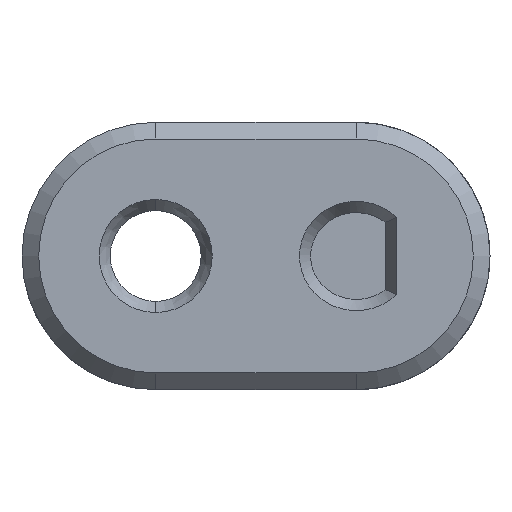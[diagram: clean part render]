
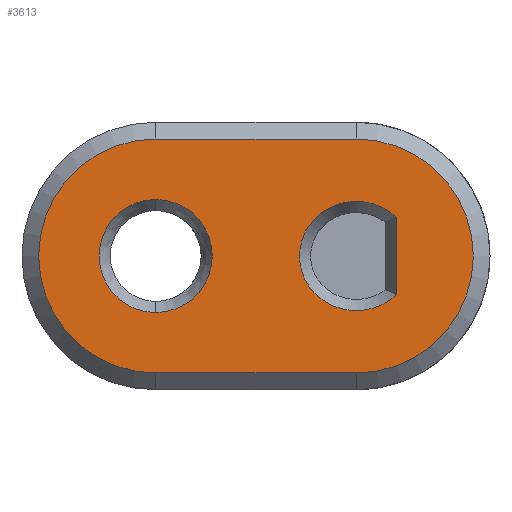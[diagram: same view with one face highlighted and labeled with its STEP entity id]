
A CAD part, front view. The second image highlights one B-rep face of the part: STEP entity #3613.
In plain terms, the highlighted planar face has unit normal (0, -1, 0).
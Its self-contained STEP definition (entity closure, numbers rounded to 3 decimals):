
#4 = AXIS2_PLACEMENT_3D ( 'NONE', #628, #1273, #2223 ) ;
#7 = VERTEX_POINT ( 'NONE', #1488 ) ;
#46 = ORIENTED_EDGE ( 'NONE', *, *, #610, .T. ) ;
#51 = CARTESIAN_POINT ( 'NONE',  ( 0.283, 0., 0.411 ) ) ;
#53 = VERTEX_POINT ( 'NONE', #2522 ) ;
#54 = AXIS2_PLACEMENT_3D ( 'NONE', #726, #3041, #2059 ) ;
#61 = CARTESIAN_POINT ( 'NONE',  ( -1.8, 0., -1.05 ) ) ;
#72 = CARTESIAN_POINT ( 'NONE',  ( -0.476, 0., 0.199 ) ) ;
#229 = B_SPLINE_CURVE_WITH_KNOTS ( 'NONE', 3,
 ( #1527, #3141, #3385, #4013, #2167, #294, #2478, #1579, #362, #2523, #1276, #658, #3153, #2214, #72, #2241, #3166, #1896, #963, #349, #1287, #992, #2839, #51, #3468, #376 ),
 .UNSPECIFIED., .F., .F.,
 ( 4, 2, 2, 2, 2, 2, 2, 2, 2, 2, 2, 2, 4 ),
 ( 0., 0.063, 0.125, 0.188, 0.25, 0.375, 0.5, 0.625, 0.75, 0.813, 0.875, 0.938, 1. ),
 .UNSPECIFIED. ) ;
#294 = CARTESIAN_POINT ( 'NONE',  ( 0.054, 0., -0.489 ) ) ;
#312 = FACE_BOUND ( 'NONE', #3646, .T. ) ;
#328 = AXIS2_PLACEMENT_3D ( 'NONE', #2500, #3148, #2272 ) ;
#349 = CARTESIAN_POINT ( 'NONE',  ( 0.001, 0., 0.492 ) ) ;
#351 = EDGE_CURVE ( 'NONE', #3744, #2238, #2599, .T. ) ;
#362 = CARTESIAN_POINT ( 'NONE',  ( -0.145, 0., -0.472 ) ) ;
#376 = CARTESIAN_POINT ( 'NONE',  ( 0.36, 0., 0.347 ) ) ;
#443 = ORIENTED_EDGE ( 'NONE', *, *, #3484, .T. ) ;
#610 = EDGE_CURVE ( 'NONE', #7, #53, #3188, .T. ) ;
#628 = CARTESIAN_POINT ( 'NONE',  ( -1.8, 0., 0. ) ) ;
#658 = CARTESIAN_POINT ( 'NONE',  ( -0.477, 0., -0.199 ) ) ;
#726 = CARTESIAN_POINT ( 'NONE',  ( -1.8, 0., 0. ) ) ;
#736 = EDGE_CURVE ( 'NONE', #3925, #3164, #1130, .T. ) ;
#752 = CARTESIAN_POINT ( 'NONE',  ( 0.36, 0., -0.302 ) ) ;
#817 = EDGE_LOOP ( 'NONE', ( #1898, #1640, #46, #1253 ) ) ;
#963 = CARTESIAN_POINT ( 'NONE',  ( -0.094, 0., 0.484 ) ) ;
#992 = CARTESIAN_POINT ( 'NONE',  ( 0.148, 0., 0.471 ) ) ;
#1000 = CIRCLE ( 'NONE', #2471, 1.05 ) ;
#1009 = DIRECTION ( 'NONE',  ( 0., 0., -1. ) ) ;
#1095 = DIRECTION ( 'NONE',  ( 0., 0., 1. ) ) ;
#1128 = DIRECTION ( 'NONE',  ( 0., -1., 0. ) ) ;
#1130 = CIRCLE ( 'NONE', #54, 0.508 ) ;
#1195 = VECTOR ( 'NONE', #2384, 1000. ) ;
#1253 = ORIENTED_EDGE ( 'NONE', *, *, #3699, .T. ) ;
#1273 = DIRECTION ( 'NONE',  ( 0., 1., 0. ) ) ;
#1276 = CARTESIAN_POINT ( 'NONE',  ( -0.365, 0., -0.356 ) ) ;
#1287 = CARTESIAN_POINT ( 'NONE',  ( 0.054, 0., 0.489 ) ) ;
#1333 = CIRCLE ( 'NONE', #4, 0.508 ) ;
#1488 = CARTESIAN_POINT ( 'NONE',  ( 0., 0., -1.05 ) ) ;
#1527 = CARTESIAN_POINT ( 'NONE',  ( 0.36, 0., -0.347 ) ) ;
#1579 = CARTESIAN_POINT ( 'NONE',  ( -0.094, 0., -0.484 ) ) ;
#1598 = CARTESIAN_POINT ( 'NONE',  ( -1.8, 0., -1.05 ) ) ;
#1606 = EDGE_LOOP ( 'NONE', ( #2824, #3062 ) ) ;
#1640 = ORIENTED_EDGE ( 'NONE', *, *, #3403, .T. ) ;
#1705 = CARTESIAN_POINT ( 'NONE',  ( -1.8, 0., 0. ) ) ;
#1755 = DIRECTION ( 'NONE',  ( 0., 0., 1. ) ) ;
#1896 = CARTESIAN_POINT ( 'NONE',  ( -0.145, 0., 0.472 ) ) ;
#1898 = ORIENTED_EDGE ( 'NONE', *, *, #2463, .T. ) ;
#1916 = LINE ( 'NONE', #61, #3292 ) ;
#2059 = DIRECTION ( 'NONE',  ( 0., 0., 1. ) ) ;
#2167 = CARTESIAN_POINT ( 'NONE',  ( 0.148, 0., -0.471 ) ) ;
#2214 = CARTESIAN_POINT ( 'NONE',  ( -0.51, 0., 0.097 ) ) ;
#2223 = DIRECTION ( 'NONE',  ( 0., 0., 1. ) ) ;
#2226 = CARTESIAN_POINT ( 'NONE',  ( -1.8, 0., 1.05 ) ) ;
#2238 = VERTEX_POINT ( 'NONE', #2579 ) ;
#2241 = CARTESIAN_POINT ( 'NONE',  ( -0.365, 0., 0.356 ) ) ;
#2272 = DIRECTION ( 'NONE',  ( 0., 0., 1. ) ) ;
#2339 = CARTESIAN_POINT ( 'NONE',  ( -1.8, 0., 0.508 ) ) ;
#2384 = DIRECTION ( 'NONE',  ( -1., 0., 0. ) ) ;
#2451 = AXIS2_PLACEMENT_3D ( 'NONE', #1705, #2969, #1095 ) ;
#2463 = EDGE_CURVE ( 'NONE', #2631, #3019, #1000, .T. ) ;
#2471 = AXIS2_PLACEMENT_3D ( 'NONE', #3660, #1128, #1755 ) ;
#2478 = CARTESIAN_POINT ( 'NONE',  ( 0.001, 0., -0.492 ) ) ;
#2500 = CARTESIAN_POINT ( 'NONE',  ( 0., 0., 0. ) ) ;
#2522 = CARTESIAN_POINT ( 'NONE',  ( 0., 0., 1.05 ) ) ;
#2523 = CARTESIAN_POINT ( 'NONE',  ( -0.279, 0., -0.42 ) ) ;
#2579 = CARTESIAN_POINT ( 'NONE',  ( 0.36, 0., -0.347 ) ) ;
#2599 = LINE ( 'NONE', #752, #2894 ) ;
#2609 = FACE_BOUND ( 'NONE', #1606, .T. ) ;
#2631 = VERTEX_POINT ( 'NONE', #2226 ) ;
#2656 = CARTESIAN_POINT ( 'NONE',  ( -1.8, 0., 1.05 ) ) ;
#2670 = PLANE ( 'NONE',  #2451 ) ;
#2676 = ORIENTED_EDGE ( 'NONE', *, *, #736, .T. ) ;
#2749 = CARTESIAN_POINT ( 'NONE',  ( 0.36, 0., 0.347 ) ) ;
#2794 = CARTESIAN_POINT ( 'NONE',  ( -1.8, 0., -0.508 ) ) ;
#2824 = ORIENTED_EDGE ( 'NONE', *, *, #3382, .T. ) ;
#2839 = CARTESIAN_POINT ( 'NONE',  ( 0.197, 0., 0.454 ) ) ;
#2856 = LINE ( 'NONE', #2656, #1195 ) ;
#2894 = VECTOR ( 'NONE', #1009, 1000. ) ;
#2901 = FACE_OUTER_BOUND ( 'NONE', #817, .T. ) ;
#2969 = DIRECTION ( 'NONE',  ( 0., 1., 0. ) ) ;
#3019 = VERTEX_POINT ( 'NONE', #1598 ) ;
#3041 = DIRECTION ( 'NONE',  ( 0., 1., 0. ) ) ;
#3062 = ORIENTED_EDGE ( 'NONE', *, *, #351, .T. ) ;
#3141 = CARTESIAN_POINT ( 'NONE',  ( 0.325, 0., -0.38 ) ) ;
#3148 = DIRECTION ( 'NONE',  ( 0., -1., 0. ) ) ;
#3153 = CARTESIAN_POINT ( 'NONE',  ( -0.51, 0., -0.096 ) ) ;
#3164 = VERTEX_POINT ( 'NONE', #2339 ) ;
#3166 = CARTESIAN_POINT ( 'NONE',  ( -0.279, 0., 0.42 ) ) ;
#3188 = CIRCLE ( 'NONE', #328, 1.05 ) ;
#3292 = VECTOR ( 'NONE', #3799, 1000. ) ;
#3382 = EDGE_CURVE ( 'NONE', #2238, #3744, #229, .T. ) ;
#3385 = CARTESIAN_POINT ( 'NONE',  ( 0.283, 0., -0.41 ) ) ;
#3403 = EDGE_CURVE ( 'NONE', #3019, #7, #1916, .T. ) ;
#3468 = CARTESIAN_POINT ( 'NONE',  ( 0.323, 0., 0.382 ) ) ;
#3484 = EDGE_CURVE ( 'NONE', #3164, #3925, #1333, .T. ) ;
#3613 = ADVANCED_FACE ( 'NONE', ( #2901, #312, #2609 ), #2670, .F. ) ;
#3646 = EDGE_LOOP ( 'NONE', ( #2676, #443 ) ) ;
#3660 = CARTESIAN_POINT ( 'NONE',  ( -1.8, 0., 0. ) ) ;
#3699 = EDGE_CURVE ( 'NONE', #53, #2631, #2856, .T. ) ;
#3744 = VERTEX_POINT ( 'NONE', #2749 ) ;
#3799 = DIRECTION ( 'NONE',  ( 1., 0., 0. ) ) ;
#3925 = VERTEX_POINT ( 'NONE', #2794 ) ;
#4013 = CARTESIAN_POINT ( 'NONE',  ( 0.197, 0., -0.454 ) ) ;
